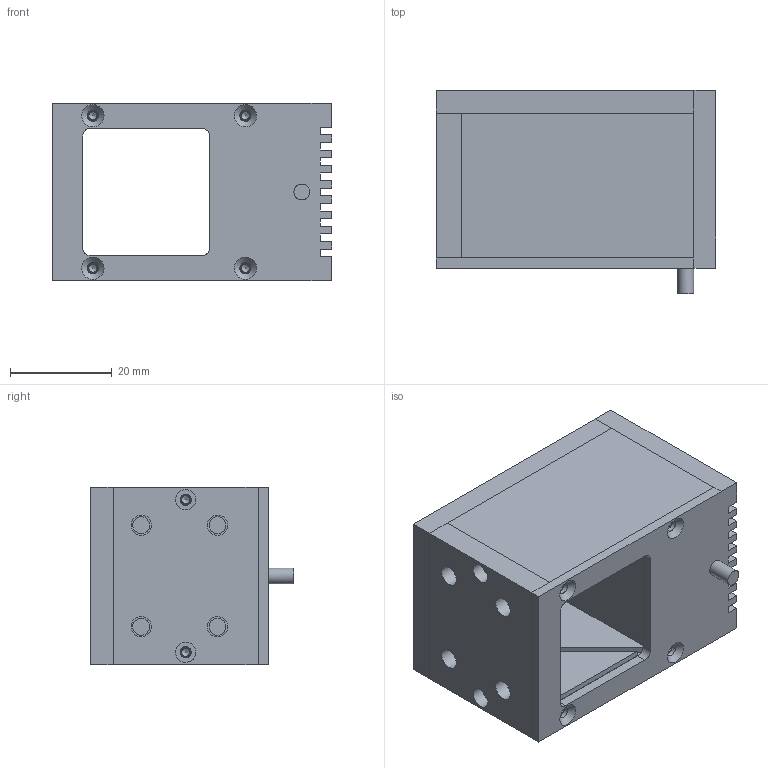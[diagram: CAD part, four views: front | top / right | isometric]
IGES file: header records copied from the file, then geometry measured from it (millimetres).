
Global section: file name: 153-00830_LK 25 R-24-KFL5-65; native system: Autodesk Inventor 2018; preprocessor: unknown; author: ss; date: 20180726.103412; units: millimetre
Bounding box: 55 x 40 x 35 mm (x, y, z)
Volume: 40651.2 mm3; surface area: 15892.2 mm2
Topology: 1 solids, 1 shells, 215 faces, 590 edges, 418 vertices
Faces by surface type: bspline 215
